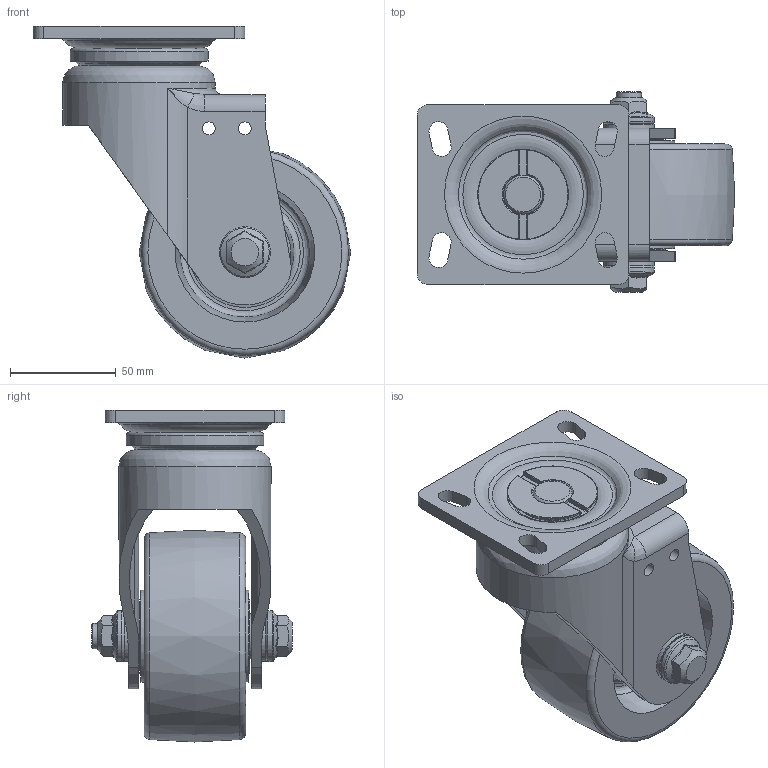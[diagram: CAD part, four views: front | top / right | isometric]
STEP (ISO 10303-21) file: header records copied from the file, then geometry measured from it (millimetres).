
FILE_DESCRIPTION((''),'2;1');
FILE_NAME('C:\Documents and Settings\Administrator\바탕 화면\3D STEP\PH-SERIES\PH-100\PH-100A-SF.stp','2010-12-27T14:46:21',('Administrator'),(''),'Autodesk Inventor 2009','Autodesk Inventor 2009','');
FILE_SCHEMA(('AUTOMOTIVE_DESIGN { 1 0 10303 214 1 1 1 1 }'));
Length unit declared in the file: millimetre
Products named in the file (1): PH-100A-SF
Bounding box: 150 x 94.8 x 156.88 mm (x, y, z)
Volume: 484109.5 mm3; surface area: 137398.1 mm2
Topology: 10 solids, 13 shells, 261 faces, 620 edges, 399 vertices
Faces by surface type: plane 85, cylinder 69, bspline 50, torus 36, cone 21
Full cylindrical faces by diameter (mm): 6.1 x4, 12 x1, 15 x2, 15.2 x2, 18.5 x2, 21.5 x1, 22 x1, 24 x4, 29.9 x1, 30 x1, 30.5 x2, 31 x1, 31.615 x2, 35 x2, 41 x1, 42.8 x2, 44 x2, 48.961 x2, 61 x1, 62 x1, 63.14 x1, 65.14 x1, 72 x1
Entity records: 9657 total; most frequent: CARTESIAN_POINT 4462, DIRECTION 1011, ORIENTED_EDGE 924, EDGE_CURVE 462, AXIS2_PLACEMENT_3D 444, EDGE_LOOP 432, VERTEX_POINT 358, FACE_OUTER_BOUND 260
